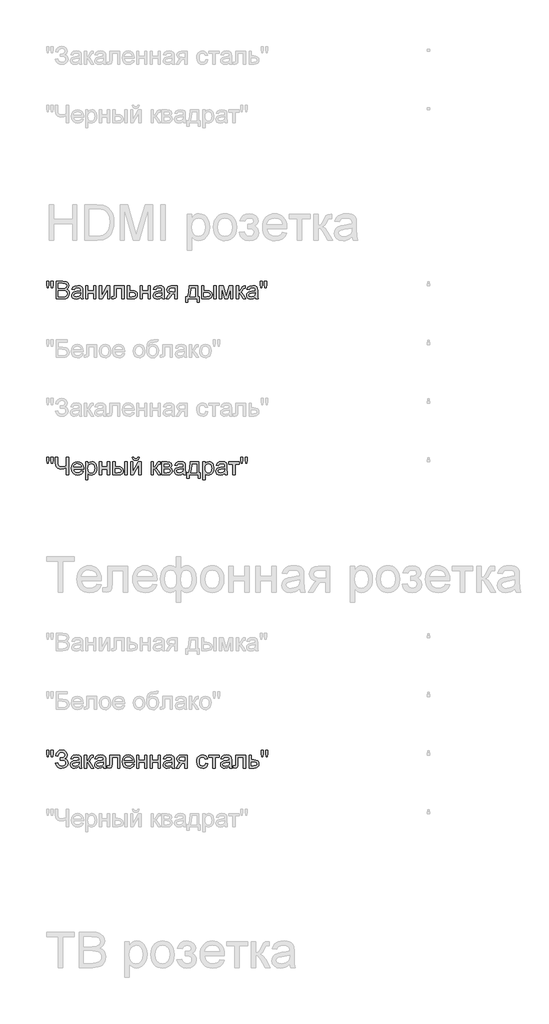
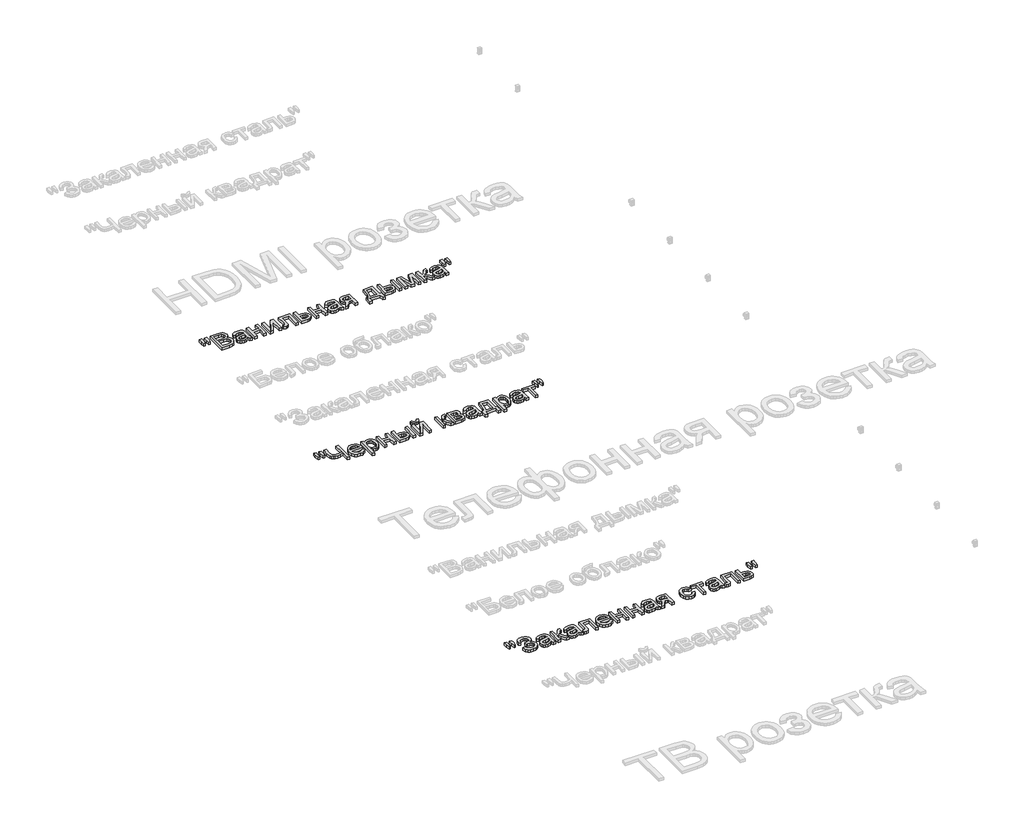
# One storey, part 53 of 168: 3 proxies.
"""IFC4 building model written with IfcOpenShell, lengths in millimetres."""

from ifc_helpers import new_model, si_unit, origin, origin_with_axes, place, context, project, spatial, polyline, outline, extrude, element, save

model = new_model("IFC4")

# Units and contexts
model_context = context("Model", 3, world=origin())
ifc_project = project(units=[si_unit("LENGTHUNIT", "METRE", prefix="MILLI")], contexts=[model_context])

# Site, building, storey
site = spatial("IfcSite", under=ifc_project)
building = spatial("IfcBuilding", under=site)
storey = spatial("IfcBuildingStorey", under=building, Name="Этаж 01", Elevation=0.0)

# Proxies
placement = place(None, origin())
element("IfcBuildingElementProxy", 1, Name="150", ObjectType="150", at=placement, inside=storey, context=model_context, shape_type="SweptSolid", body=[
    extrude(outline(polyline([(54389.7772739, -43970.3300622), (54385.178749, -43941.2305964), (54385.178749, -43916.1778325), (54404.0143071, -43916.1778325), (54404.0143071, -43941.2305964), (54399.8940288, -43970.3300622), (54389.7772739, -43970.3300622)])), origin_with_axes(), (0.0, 0.0, 1.0), 20.0),
    extrude(outline(polyline([(54427.3380256, -43970.3300622), (54422.8498653, -43941.2305964), (54422.8498653, -43916.1778325), (54441.6854234, -43916.1778325), (54441.6854234, -43941.2305964), (54437.2708395, -43970.3300622), (54427.3380256, -43970.3300622)])), origin_with_axes(), (0.0, 0.0, 1.0), 20.0),
    extrude(outline(polyline([(54467.5843159, -44066.8622977), (54467.5843159, -43916.1778325), (54525.0842718, -43916.1778325), (54553.2456385, -43920.6108106), (54562.7094028, -43926.2348066), (54569.8739047, -43934.2408385), (54575.8887753, -43953.517855), (54570.8303979, -43971.1210085), (54555.544901, -43984.4567308), (54566.2180773, -43990.030143), (54574.1045476, -43998.509823), (54578.9743855, -44009.3347507), (54580.5976648, -44021.9439061), (54576.1646868, -44042.19581), (54565.1834092, -44056.6167842), (54548.7942663, -44064.2687297), (54524.6428134, -44066.8622977), (54467.5843159, -44066.8622977)]), holes=[polyline([(54486.4198741, -43977.3933965), (54520.8168406, -43977.3933965), (54540.9031975, -43975.7747157), (54552.9881211, -43968.8033519), (54557.0532171, -43956.5344874), (54553.2640326, -43944.2472287), (54542.4115137, -43936.9815593), (54518.2048784, -43935.0133907), (54486.4198741, -43935.0133907), (54486.4198741, -43977.3933965)]), polyline([(54486.4198741, -44048.0267396), (54525.0474836, -44048.0267396), (54539.0269994, -44047.2909756), (54550.8544055, -44043.1890913), (54558.690292, -44034.819776), (54561.7621067, -44022.1278471), (54558.1568631, -44007.4861437), (54546.4766098, -43998.7489463), (54523.2080736, -43996.2289547), (54486.4198741, -43996.2289547), (54486.4198741, -44048.0267396)])]), origin_with_axes(), (0.0, 0.0, 1.0), 20.0),
    extrude(outline(polyline([(54674.7754556, -44052.7356291), (54656.5101145, -44065.5011344), (54636.3317871, -44069.2167425), (54620.5910362, -44066.9818594), (54608.9797608, -44060.27721), (54601.8198574, -44050.0960758), (54599.433223, -44037.4317381), (54603.0384665, -44022.5325173), (54612.5114279, -44011.7167867), (54625.6999974, -44005.5363691), (54641.9971698, -44002.7036778), (54674.665091, -43996.2289547), (54674.7754556, -43992.0350999), (54673.4786716, -43983.6289963), (54669.5883195, -43978.1291605), (54660.8879103, -43974.0456704), (54648.7661985, -43972.684507), (54629.7099112, -43976.3081446), (54620.6232259, -43989.1656204), (54601.7876677, -43986.8111756), (54609.9362539, -43968.4170758), (54626.3437909, -43957.6381334), (54651.1942197, -43953.8489488), (54674.0212975, -43957.196675), (54686.9155614, -43965.6027786), (54692.6913088, -43978.3866779), (54693.6110137, -43994.8677913), (54693.6110137, -44018.3018744), (54694.5675069, -44051.0249778), (54698.3199033, -44066.8622977), (54679.4843451, -44066.8622977), (54674.7754556, -44052.7356291)]), holes=[polyline([(54674.7754556, -44015.0645128), (54644.3884028, -44020.8402601), (54628.1832009, -44023.8936807), (54620.8439551, -44028.8600876), (54618.2687811, -44036.1073629), (54623.8789816, -44046.2976942), (54640.3417008, -44050.3811843), (54659.3979882, -44045.8746299), (54671.6852468, -44034.9669288), (54674.665091, -44020.3988017), (54674.7754556, -44015.0645128)])]), origin_with_axes(), (0.0, 0.0, 1.0), 20.0),
    extrude(outline(polyline([(54719.5099062, -43956.2033936), (54738.3454644, -43956.2033936), (54738.3454644, -43998.5833994), (54787.7888045, -43998.5833994), (54787.7888045, -43956.2033936), (54806.6243627, -43956.2033936), (54806.6243627, -44066.8622977), (54787.7888045, -44066.8622977), (54787.7888045, -44017.4189576), (54738.3454644, -44017.4189576), (54738.3454644, -44066.8622977), (54719.5099062, -44066.8622977), (54719.5099062, -43956.2033936)])), origin_with_axes(), (0.0, 0.0, 1.0), 20.0),
    extrude(outline(polyline([(54834.8776999, -43956.2033936), (54853.713258, -43956.2033936), (54853.713258, -44040.5955233), (54899.992813, -43956.2033936), (54924.3466011, -43956.2033936), (54924.3466011, -44066.8622977), (54905.511043, -44066.8622977), (54905.511043, -43982.9852028), (54859.5257936, -44066.8622977), (54834.8776999, -44066.8622977), (54834.8776999, -43956.2033936)])), origin_with_axes(), (0.0, 0.0, 1.0), 20.0),
    extrude(outline(polyline([(54962.0177174, -43956.2033936), (55046.7777291, -43956.2033936), (55046.7777291, -44066.7519331), (55027.942171, -44066.7519331), (55027.942171, -43975.0389517), (54980.8532756, -43975.0389517), (54980.8532756, -44027.830018), (54979.5840827, -44052.1838061), (54972.6127189, -44062.4661079), (54956.1316055, -44066.8622977), (54940.8277145, -44065.9058045), (54940.8277145, -44048.0267396), (54949.2522122, -44048.0267396), (54957.7686804, -44046.8679113), (54961.1715888, -44043.1890913), (54962.0177174, -44026.7631603), (54962.0177174, -43956.2033936)])), origin_with_axes(), (0.0, 0.0, 1.0), 20.0),
    extrude(outline(polyline([(55075.0310663, -43956.2033936), (55093.8666245, -43956.2033936), (55093.8666245, -43996.2289547), (55115.5716622, -43996.2289547), (55134.3888263, -43998.587998), (55148.3131598, -44005.6651278), (55156.9215985, -44016.8901272), (55159.791078, -44031.692779), (55157.3492613, -44045.1710556), (55150.0238111, -44056.5432078), (55137.3272837, -44064.2825252), (55118.7722356, -44066.8622977), (55075.0310663, -44066.8622977), (55075.0310663, -43956.2033936)]), holes=[polyline([(55093.8666245, -44048.0267396), (55111.4513839, -44048.0267396), (55134.1680971, -44044.0720081), (55139.2586642, -44039.0090322), (55140.9555199, -44031.7295672), (55135.9339306, -44020.1412843), (55127.8635194, -44016.3337057), (55113.695464, -44015.0645128), (55093.8666245, -44015.0645128), (55093.8666245, -44048.0267396)])]), origin_with_axes(), (0.0, 0.0, 1.0), 20.0),
    extrude(outline(polyline([(55183.3355257, -43956.2033936), (55202.1710839, -43956.2033936), (55202.1710839, -43998.5833994), (55251.614424, -43998.5833994), (55251.614424, -43956.2033936), (55270.4499822, -43956.2033936), (55270.4499822, -44066.8622977), (55251.614424, -44066.8622977), (55251.614424, -44017.4189576), (55202.1710839, -44017.4189576), (55202.1710839, -44066.8622977), (55183.3355257, -44066.8622977), (55183.3355257, -43956.2033936)])), origin_with_axes(), (0.0, 0.0, 1.0), 20.0),
    extrude(outline(polyline([(55369.3366625, -44052.7356291), (55351.0713214, -44065.5011344), (55330.892994, -44069.2167425), (55315.1522431, -44066.9818594), (55303.5409676, -44060.27721), (55296.3810643, -44050.0960758), (55293.9944299, -44037.4317381), (55297.5996734, -44022.5325173), (55307.0726348, -44011.7167867), (55320.2612043, -44005.5363691), (55336.5583767, -44002.7036778), (55369.2262979, -43996.2289547), (55369.3366625, -43992.0350999), (55368.0398785, -43983.6289963), (55364.1495264, -43978.1291605), (55355.4491172, -43974.0456704), (55343.3274054, -43972.684507), (55324.2711181, -43976.3081446), (55315.1844328, -43989.1656204), (55296.3488746, -43986.8111756), (55304.4974608, -43968.4170758), (55320.9049978, -43957.6381334), (55345.7554266, -43953.8489488), (55368.5825044, -43957.196675), (55381.4767683, -43965.6027786), (55387.2525157, -43978.3866779), (55388.1722206, -43994.8677913), (55388.1722206, -44018.3018744), (55389.1287138, -44051.0249778), (55392.8811102, -44066.8622977), (55374.045552, -44066.8622977), (55369.3366625, -44052.7356291)]), holes=[polyline([(55369.3366625, -44015.0645128), (55338.9496097, -44020.8402601), (55322.7444078, -44023.8936807), (55315.405162, -44028.8600876), (55312.829988, -44036.1073629), (55318.4401885, -44046.2976942), (55334.9029077, -44050.3811843), (55353.9591951, -44045.8746299), (55366.2464537, -44034.9669288), (55369.2262979, -44020.3988017), (55369.3366625, -44015.0645128)])]), origin_with_axes(), (0.0, 0.0, 1.0), 20.0),
    extrude(outline(polyline([(55498.8311248, -43956.2033936), (55498.8311248, -44066.8622977), (55479.9955666, -44066.8622977), (55479.9955666, -44024.4822919), (55469.731659, -44024.4822919), (55455.7521432, -44026.8735249), (55442.6187559, -44042.949968), (55427.6091705, -44066.8622977), (55405.8305564, -44066.8622977), (55424.739691, -44036.6223977), (55433.0906122, -44025.7698789), (55440.7793459, -44020.9506247), (55427.9034761, -44017.0050903), (55418.853579, -44009.5094947), (55413.500896, -43999.5398926), (55411.7166683, -43988.172339), (55414.1538865, -43975.278075), (55421.4655412, -43965.0693497), (55433.3941149, -43958.4198826), (55449.6820902, -43956.2033936), (55498.8311248, -43956.2033936)]), holes=[polyline([(55479.9955666, -43975.0389517), (55455.163532, -43975.0389517), (55442.3382459, -43976.1288021), (55435.0587809, -43979.3983534), (55430.5522265, -43989.6070787), (55432.212294, -43996.7853762), (55437.1924965, -44001.7655787), (55460.7185501, -44005.6467337), (55479.9955666, -44005.6467337), (55479.9955666, -43975.0389517)])]), origin_with_axes(), (0.0, 0.0, 1.0), 20.0),
    extrude(outline(polyline([(55602.4266946, -43956.2033936), (55673.0600377, -43956.2033936), (55673.0600377, -44048.0267396), (55687.1867063, -44048.0267396), (55687.1867063, -44097.4700797), (55668.3511482, -44097.4700797), (55668.3511482, -44066.8622977), (55590.6544708, -44066.8622977), (55590.6544708, -44097.4700797), (55571.8189126, -44097.4700797), (55571.8189126, -44048.0267396), (55583.5911365, -44048.0267396), (55592.1489914, -44032.5619002), (55598.1408694, -44012.1030628), (55602.4266946, -43956.2033936)]), holes=[polyline([(55618.907808, -43975.0389517), (55614.4932241, -44017.9523865), (55604.7811394, -44048.0267396), (55654.2244796, -44048.0267396), (55654.2244796, -43975.0389517), (55618.907808, -43975.0389517)])]), origin_with_axes(), (0.0, 0.0, 1.0), 20.0),
    extrude(outline(polyline([(55811.9722791, -43956.2033936), (55830.8078372, -43956.2033936), (55830.8078372, -44066.8622977), (55811.9722791, -44066.8622977), (55811.9722791, -43956.2033936)])), origin_with_axes(), (0.0, 0.0, 1.0), 20.0),
    extrude(outline(polyline([(55708.3767092, -43956.2033936), (55727.2122674, -43956.2033936), (55727.2122674, -43996.2289547), (55750.4991977, -43996.2289547), (55770.6269413, -43998.587998), (55785.5399577, -44005.6651278), (55794.7691973, -44016.8901272), (55797.8456105, -44031.692779), (55795.265838, -44045.1710556), (55787.5265205, -44056.5432078), (55774.1218203, -44064.2825252), (55754.5458996, -44066.8622977), (55708.3767092, -44066.8622977), (55708.3767092, -43956.2033936)]), holes=[polyline([(55727.2122674, -44048.0267396), (55746.5628603, -44048.0267396), (55771.5420478, -44044.0720081), (55777.1430512, -44039.0090322), (55779.0100523, -44031.7295672), (55773.4734283, -44020.1412843), (55764.5936766, -44016.3337057), (55749.0276697, -44015.0645128), (55727.2122674, -44015.0645128), (55727.2122674, -44048.0267396)])]), origin_with_axes(), (0.0, 0.0, 1.0), 20.0),
    extrude(outline(polyline([(55859.0611745, -43956.2033936), (55891.4715782, -43956.2033936), (55916.4507657, -44044.789378), (55943.3797278, -43956.2033936), (55974.4289682, -43956.2033936), (55974.4289682, -44066.8622977), (55955.59341, -44066.8622977), (55955.59341, -43977.7612785), (55928.5172952, -44066.8622977), (55903.7956251, -44066.8622977), (55877.8967326, -43973.4938474), (55877.8967326, -44066.8622977), (55859.0611745, -44066.8622977), (55859.0611745, -43956.2033936)])), origin_with_axes(), (0.0, 0.0, 1.0), 20.0),
    extrude(outline(polyline([(56002.6823054, -43956.2033936), (56021.5178635, -43956.2033936), (56021.5178635, -44003.292289), (56034.136216, -43999.9077746), (56044.4737, -43980.1892997), (56053.0637446, -43963.1747574), (56060.6421137, -43957.6381334), (56074.4192944, -43956.2033936), (56078.024538, -43956.2033936), (56078.024538, -43975.1493163), (56072.9477665, -43975.0389517), (56063.7507166, -43977.0255145), (56057.2759935, -43989.4231377), (56049.6792303, -44002.8324365), (56039.0290465, -44009.3991301), (56050.9116349, -44016.7291788), (56062.5734942, -44032.1710256), (56082.7334275, -44066.8622977), (56061.3226954, -44066.8622977), (56041.5674323, -44032.9067896), (56031.6346184, -44018.5409977), (56021.5178635, -44015.0645128), (56021.5178635, -44066.8622977), (56002.6823054, -44066.8622977), (56002.6823054, -43956.2033936)])), origin_with_axes(), (0.0, 0.0, 1.0), 20.0),
    extrude(outline(polyline([(56165.1389945, -44052.7356291), (56146.8736534, -44065.5011344), (56126.695326, -44069.2167425), (56110.9545751, -44066.9818594), (56099.3432996, -44060.27721), (56092.1833963, -44050.0960758), (56089.7967618, -44037.4317381), (56093.4020054, -44022.5325173), (56102.8749668, -44011.7167867), (56116.0635363, -44005.5363691), (56132.3607087, -44002.7036778), (56165.0286299, -43996.2289547), (56165.1389945, -43992.0350999), (56163.8422104, -43983.6289963), (56159.9518583, -43978.1291605), (56151.2514491, -43974.0456704), (56139.1297374, -43972.684507), (56120.07345, -43976.3081446), (56110.9867648, -43989.1656204), (56092.1512066, -43986.8111756), (56100.2997928, -43968.4170758), (56116.7073298, -43957.6381334), (56141.5577586, -43953.8489488), (56164.3848364, -43957.196675), (56177.2791003, -43965.6027786), (56183.0548476, -43978.3866779), (56183.9745526, -43994.8677913), (56183.9745526, -44018.3018744), (56184.9310458, -44051.0249778), (56188.6834421, -44066.8622977), (56169.847884, -44066.8622977), (56165.1389945, -44052.7356291)]), holes=[polyline([(56165.1389945, -44015.0645128), (56134.7519417, -44020.8402601), (56118.5467398, -44023.8936807), (56111.207494, -44028.8600876), (56108.63232, -44036.1073629), (56114.2425204, -44046.2976942), (56130.7052397, -44050.3811843), (56149.7615271, -44045.8746299), (56162.0487857, -44034.9669288), (56165.0286299, -44020.3988017), (56165.1389945, -44015.0645128)])]), origin_with_axes(), (0.0, 0.0, 1.0), 20.0),
    extrude(outline(polyline([(56209.7630805, -43970.3300622), (56205.1645555, -43941.2305964), (56205.1645555, -43916.1778325), (56224.0001137, -43916.1778325), (56224.0001137, -43941.2305964), (56219.8798353, -43970.3300622), (56209.7630805, -43970.3300622)])), origin_with_axes(), (0.0, 0.0, 1.0), 20.0),
    extrude(outline(polyline([(56247.3238322, -43970.3300622), (56242.8356718, -43941.2305964), (56242.8356718, -43916.1778325), (56261.67123, -43916.1778325), (56261.67123, -43941.2305964), (56257.256646, -43970.3300622), (56247.3238322, -43970.3300622)])), origin_with_axes(), (0.0, 0.0, 1.0), 20.0),
])
element("IfcBuildingElementProxy", 2, Name="150", ObjectType="150", at=placement, inside=storey, context=model_context, shape_type="SweptSolid", body=[
    extrude(outline(polyline([(54389.7772739, -45470.3300622), (54385.178749, -45441.2305964), (54385.178749, -45416.1778325), (54404.0143071, -45416.1778325), (54404.0143071, -45441.2305964), (54399.8940288, -45470.3300622), (54389.7772739, -45470.3300622)])), origin_with_axes(), (0.0, 0.0, 1.0), 20.0),
    extrude(outline(polyline([(54427.3380256, -45470.3300622), (54422.8498653, -45441.2305964), (54422.8498653, -45416.1778325), (54441.6854234, -45416.1778325), (54441.6854234, -45441.2305964), (54437.2708395, -45470.3300622), (54427.3380256, -45470.3300622)])), origin_with_axes(), (0.0, 0.0, 1.0), 20.0),
    extrude(outline(polyline([(54573.5343305, -45566.8622977), (54554.6987724, -45566.8622977), (54554.6987724, -45506.5296505), (54529.7195849, -45514.6966308), (54508.0513354, -45517.4189576), (54493.3682452, -45515.556555), (54480.515368, -45509.9693472), (54470.554963, -45501.5172583), (54464.5492894, -45491.0602126), (54460.5209816, -45461.0594359), (54460.5209816, -45416.1778325), (54479.3565398, -45416.1778325), (54479.3565398, -45458.5210502), (54481.619014, -45478.8879171), (54488.4064368, -45490.8394834), (54498.3668419, -45496.6474204), (54510.1482628, -45498.5833994), (54531.8808916, -45496.2473488), (54554.6987724, -45489.2391968), (54554.6987724, -45416.1778325), (54573.5343305, -45416.1778325), (54573.5343305, -45566.8622977)])), origin_with_axes(), (0.0, 0.0, 1.0), 20.0),
    extrude(outline(polyline([(54681.6180607, -45533.900071), (54700.0857369, -45536.2545157), (54693.4316713, -45550.1696522), (54682.8136772, -45560.5715156), (54668.4708779, -45567.0554358), (54650.6423967, -45569.2167425), (54628.5418858, -45565.4873388), (54611.5365406, -45554.2991276), (54600.6932188, -45536.3786759), (54597.0787782, -45512.4525506), (54600.730007, -45487.7216835), (54611.6836934, -45469.2264162), (54628.4591124, -45457.6933157), (54649.5755389, -45453.8489488), (54670.0343764, -45457.6841186), (54686.3821325, -45469.189628), (54697.1012942, -45487.6481071), (54700.6743481, -45512.342186), (54700.5639835, -45517.4189576), (54615.9143364, -45517.4189576), (54619.1746905, -45531.518035), (54626.7484611, -45541.8831103), (54637.6791549, -45548.2566658), (54651.0102787, -45550.3811843), (54669.4779549, -45546.444847), (54681.6180607, -45533.900071)]), holes=[polyline([(54615.9143364, -45498.5833994), (54681.8387899, -45498.5833994), (54679.2912071, -45488.6321915), (54674.297209, -45481.5136749), (54663.3159314, -45474.8917989), (54649.5019625, -45472.684507), (54636.8054352, -45474.445742), (54626.3070027, -45479.7294472), (54619.0091436, -45487.9654053), (54615.9143364, -45498.5833994)])]), origin_with_axes(), (0.0, 0.0, 1.0), 20.0),
    extrude(outline(polyline([(54719.5099062, -45609.2423036), (54719.5099062, -45456.2033936), (54738.3454644, -45456.2033936), (54738.3454644, -45474.6710697), (54751.368487, -45459.054479), (54768.9532464, -45453.8489488), (54781.6911604, -45455.6699647), (54792.8287878, -45461.1330123), (54801.897079, -45469.9069979), (54808.4269844, -45481.6608277), (54813.687697, -45510.6867171), (54812.2023734, -45526.7953499), (54807.7464027, -45541.2025286), (54800.4623392, -45553.1770875), (54790.4927372, -45561.9878613), (54778.8814617, -45567.4095222), (54766.672378, -45569.2167425), (54750.2832351, -45564.3790943), (54738.3454644, -45552.1470179), (54738.3454644, -45609.2423036), (54719.5099062, -45609.2423036)]), holes=[polyline([(54738.3454644, -45512.4157624), (54740.3826109, -45529.301546), (54746.4940506, -45541.1105581), (54755.511758, -45548.0635278), (54766.2677078, -45550.3811843), (54777.1984016, -45547.9807543), (54786.4460352, -45540.7794643), (54792.7506129, -45528.5381909), (54794.8521388, -45511.0178109), (54792.8011967, -45494.2239978), (54786.6483703, -45482.2494388), (54777.6444585, -45475.0757399), (54767.04026, -45472.684507), (54756.3946747, -45475.2274913), (54747.0458735, -45482.8564441), (54740.5205667, -45495.3322423), (54738.3454644, -45512.4157624)])]), origin_with_axes(), (0.0, 0.0, 1.0), 20.0),
    extrude(outline(polyline([(54834.8776999, -45456.2033936), (54853.713258, -45456.2033936), (54853.713258, -45498.5833994), (54903.1565982, -45498.5833994), (54903.1565982, -45456.2033936), (54921.9921564, -45456.2033936), (54921.9921564, -45566.8622977), (54903.1565982, -45566.8622977), (54903.1565982, -45517.4189576), (54853.713258, -45517.4189576), (54853.713258, -45566.8622977), (54834.8776999, -45566.8622977), (54834.8776999, -45456.2033936)])), origin_with_axes(), (0.0, 0.0, 1.0), 20.0),
    extrude(outline(polyline([(55053.8410634, -45456.2033936), (55072.6766216, -45456.2033936), (55072.6766216, -45566.8622977), (55053.8410634, -45566.8622977), (55053.8410634, -45456.2033936)])), origin_with_axes(), (0.0, 0.0, 1.0), 20.0),
    extrude(outline(polyline([(54950.2454936, -45456.2033936), (54969.0810517, -45456.2033936), (54969.0810517, -45496.2289547), (54992.367982, -45496.2289547), (55012.4957257, -45498.587998), (55027.4087421, -45505.6651278), (55036.6379816, -45516.8901272), (55039.7143948, -45531.692779), (55037.1346223, -45545.1710556), (55029.3953048, -45556.5432078), (55015.9906046, -45564.2825252), (54996.414684, -45566.8622977), (54950.2454936, -45566.8622977), (54950.2454936, -45456.2033936)]), holes=[polyline([(54969.0810517, -45548.0267396), (54988.4316447, -45548.0267396), (55013.4108322, -45544.0720081), (55019.0118355, -45539.0090322), (55020.8788367, -45531.7295672), (55015.3422126, -45520.1412843), (55006.462461, -45516.3337057), (54990.896454, -45515.0645128), (54969.0810517, -45515.0645128), (54969.0810517, -45548.0267396)])]), origin_with_axes(), (0.0, 0.0, 1.0), 20.0),
    extrude(outline(polyline([(55100.9299588, -45456.2033936), (55119.765517, -45456.2033936), (55119.765517, -45540.5955233), (55166.045072, -45456.2033936), (55190.39886, -45456.2033936), (55190.39886, -45566.8622977), (55171.5633019, -45566.8622977), (55171.5633019, -45482.9852028), (55125.5780525, -45566.8622977), (55100.9299588, -45566.8622977), (55100.9299588, -45456.2033936)])), origin_with_axes(), (0.0, 0.0, 1.0), 20.0),
    extrude(outline(polyline([(55162.1455228, -45416.1778325), (55176.2721914, -45416.1778325), (55173.2325664, -45428.2397634), (55167.1303238, -45437.1287121), (55158.2413751, -45442.6055553), (55146.8416318, -45444.4311697), (55134.4715997, -45442.6193509), (55124.8790767, -45437.1838944), (55118.3215801, -45428.3087413), (55115.0566274, -45416.1778325), (55129.183296, -45416.1778325), (55134.4807968, -45426.7912281), (55145.1493746, -45430.3045011), (55156.8480221, -45426.9015927), (55162.1455228, -45416.1778325)])), origin_with_axes(), (0.0, 0.0, 1.0), 20.0),
    extrude(outline(polyline([(55277.5133165, -45456.2033936), (55296.3488746, -45456.2033936), (55296.3488746, -45503.292289), (55308.9672271, -45499.9077746), (55319.3047111, -45480.1892997), (55327.8947557, -45463.1747574), (55335.4731248, -45457.6381334), (55349.2503055, -45456.2033936), (55352.8555491, -45456.2033936), (55352.8555491, -45475.1493163), (55347.7787776, -45475.0389517), (55338.5817277, -45477.0255145), (55332.1070046, -45489.4231377), (55324.5102414, -45502.8324365), (55313.8600576, -45509.3991301), (55325.7426461, -45516.7291788), (55337.4045053, -45532.1710256), (55357.5644386, -45566.8622977), (55336.1537065, -45566.8622977), (55316.3984434, -45532.9067896), (55306.4656295, -45518.5409977), (55296.3488746, -45515.0645128), (55296.3488746, -45566.8622977), (55277.5133165, -45566.8622977), (55277.5133165, -45456.2033936)])), origin_with_axes(), (0.0, 0.0, 1.0), 20.0),
    extrude(outline(polyline([(55369.3366625, -45456.2033936), (55410.8337515, -45456.2033936), (55433.5872529, -45458.7233853), (55446.3895464, -45467.9572233), (55451.7422294, -45484.0520606), (55448.5048678, -45497.1302655), (55438.755995, -45506.4560741), (55451.4111356, -45516.6647995), (55456.4511189, -45534.4151058), (55453.2597426, -45548.7717006), (55445.6721765, -45558.8792584), (55433.6608293, -45564.8665379), (55417.1981101, -45566.8622977), (55369.3366625, -45566.8622977), (55369.3366625, -45456.2033936)]), holes=[polyline([(55388.1722206, -45498.5833994), (55406.7870496, -45498.5833994), (55422.1461229, -45497.6269062), (55429.6141274, -45493.8009335), (55432.9066713, -45486.884752), (55431.4627344, -45481.2653545), (55427.1309239, -45477.6509139), (55407.3756608, -45475.0389517), (55388.1722206, -45475.0389517), (55388.1722206, -45498.5833994)]), polyline([(55388.1722206, -45548.0267396), (55411.2752099, -45548.0267396), (55431.7662371, -45544.6238311), (55436.0060771, -45539.9839195), (55437.6155608, -45532.8700014), (55434.3965933, -45523.8017102), (55426.0088838, -45518.5226036), (55409.4358, -45517.4189576), (55388.1722206, -45517.4189576), (55388.1722206, -45548.0267396)])]), origin_with_axes(), (0.0, 0.0, 1.0), 20.0),
    extrude(outline(polyline([(55550.6289097, -45552.7356291), (55532.3635686, -45565.5011344), (55512.1852412, -45569.2167425), (55496.4444903, -45566.9818594), (55484.8332149, -45560.27721), (55477.6733115, -45550.0960758), (55475.2866771, -45537.4317381), (55478.8919206, -45522.5325173), (55488.364882, -45511.7167867), (55501.5534516, -45505.5363691), (55517.8506239, -45502.7036778), (55550.5185451, -45496.2289547), (55550.6289097, -45492.0350999), (55549.3321257, -45483.6289963), (55545.4417736, -45478.1291605), (55536.7413644, -45474.0456704), (55524.6196526, -45472.684507), (55505.5633653, -45476.3081446), (55496.47668, -45489.1656204), (55477.6411219, -45486.8111756), (55485.7897081, -45468.4170758), (55502.197245, -45457.6381334), (55527.0476738, -45453.8489488), (55549.8747516, -45457.196675), (55562.7690155, -45465.6027786), (55568.5447629, -45478.3866779), (55569.4644679, -45494.8677913), (55569.4644679, -45518.3018744), (55570.420961, -45551.0249778), (55574.1733574, -45566.8622977), (55555.3377992, -45566.8622977), (55550.6289097, -45552.7356291)]), holes=[polyline([(55550.6289097, -45515.0645128), (55520.2418569, -45520.8402601), (55504.036655, -45523.8936807), (55496.6974092, -45528.8600876), (55494.1222352, -45536.1073629), (55499.7324357, -45546.2976942), (55516.195155, -45550.3811843), (55535.2514423, -45545.8746299), (55547.5387009, -45534.9669288), (55550.5185451, -45520.3988017), (55550.6289097, -45515.0645128)])]), origin_with_axes(), (0.0, 0.0, 1.0), 20.0),
    extrude(outline(polyline([(55611.8444737, -45456.2033936), (55682.4778168, -45456.2033936), (55682.4778168, -45548.0267396), (55696.6044854, -45548.0267396), (55696.6044854, -45597.4700797), (55677.7689272, -45597.4700797), (55677.7689272, -45566.8622977), (55600.0722499, -45566.8622977), (55600.0722499, -45597.4700797), (55581.2366917, -45597.4700797), (55581.2366917, -45548.0267396), (55593.0089156, -45548.0267396), (55601.5667705, -45532.5619002), (55607.5586485, -45512.1030628), (55611.8444737, -45456.2033936)]), holes=[polyline([(55628.3255871, -45475.0389517), (55623.9110031, -45517.9523865), (55614.1989185, -45548.0267396), (55663.6422586, -45548.0267396), (55663.6422586, -45475.0389517), (55628.3255871, -45475.0389517)])]), origin_with_axes(), (0.0, 0.0, 1.0), 20.0),
    extrude(outline(polyline([(55717.7944883, -45609.2423036), (55717.7944883, -45456.2033936), (55736.6300465, -45456.2033936), (55736.6300465, -45474.6710697), (55749.6530691, -45459.054479), (55767.2378285, -45453.8489488), (55779.9757426, -45455.6699647), (55791.11337, -45461.1330123), (55800.1816611, -45469.9069979), (55806.7115666, -45481.6608277), (55811.9722791, -45510.6867171), (55810.4869555, -45526.7953499), (55806.0309849, -45541.2025286), (55798.7469214, -45553.1770875), (55788.7773193, -45561.9878613), (55777.1660438, -45567.4095222), (55764.9569601, -45569.2167425), (55748.5678172, -45564.3790943), (55736.6300465, -45552.1470179), (55736.6300465, -45609.2423036), (55717.7944883, -45609.2423036)]), holes=[polyline([(55736.6300465, -45512.4157624), (55738.667193, -45529.301546), (55744.7786327, -45541.1105581), (55753.7963401, -45548.0635278), (55764.5522899, -45550.3811843), (55775.4829837, -45547.9807543), (55784.7306173, -45540.7794643), (55791.035195, -45528.5381909), (55793.1367209, -45511.0178109), (55791.0857788, -45494.2239978), (55784.9329524, -45482.2494388), (55775.9290406, -45475.0757399), (55765.3248421, -45472.684507), (55754.6792569, -45475.2274913), (55745.3304557, -45482.8564441), (55738.8051488, -45495.3322423), (55736.6300465, -45512.4157624)])]), origin_with_axes(), (0.0, 0.0, 1.0), 20.0),
    extrude(outline(polyline([(55903.7956251, -45552.7356291), (55885.530284, -45565.5011344), (55865.3519566, -45569.2167425), (55849.6112057, -45566.9818594), (55837.9999302, -45560.27721), (55830.8400269, -45550.0960758), (55828.4533925, -45537.4317381), (55832.058636, -45522.5325173), (55841.5315974, -45511.7167867), (55854.7201669, -45505.5363691), (55871.0173393, -45502.7036778), (55903.6852605, -45496.2289547), (55903.7956251, -45492.0350999), (55902.498841, -45483.6289963), (55898.6084889, -45478.1291605), (55889.9080798, -45474.0456704), (55877.786368, -45472.684507), (55858.7300807, -45476.3081446), (55849.6433954, -45489.1656204), (55830.8078372, -45486.8111756), (55838.9564234, -45468.4170758), (55855.3639604, -45457.6381334), (55880.2143892, -45453.8489488), (55903.041467, -45457.196675), (55915.9357309, -45465.6027786), (55921.7114782, -45478.3866779), (55922.6311832, -45494.8677913), (55922.6311832, -45518.3018744), (55923.5876764, -45551.0249778), (55927.3400728, -45566.8622977), (55908.5045146, -45566.8622977), (55903.7956251, -45552.7356291)]), holes=[polyline([(55903.7956251, -45515.0645128), (55873.4085723, -45520.8402601), (55857.2033704, -45523.8936807), (55849.8641246, -45528.8600876), (55847.2889506, -45536.1073629), (55852.899151, -45546.2976942), (55869.3618703, -45550.3811843), (55888.4181577, -45545.8746299), (55900.7054163, -45534.9669288), (55903.6852605, -45520.3988017), (55903.7956251, -45515.0645128)])]), origin_with_axes(), (0.0, 0.0, 1.0), 20.0),
    extrude(outline(polyline([(55939.1122966, -45456.2033936), (56028.5811978, -45456.2033936), (56028.5811978, -45475.0389517), (55993.2645263, -45475.0389517), (55993.2645263, -45566.8622977), (55974.4289682, -45566.8622977), (55974.4289682, -45475.0389517), (55939.1122966, -45475.0389517), (55939.1122966, -45456.2033936)])), origin_with_axes(), (0.0, 0.0, 1.0), 20.0),
    extrude(outline(polyline([(56044.9519466, -45470.3300622), (56040.3534217, -45441.2305964), (56040.3534217, -45416.1778325), (56059.1889798, -45416.1778325), (56059.1889798, -45441.2305964), (56055.0687015, -45470.3300622), (56044.9519466, -45470.3300622)])), origin_with_axes(), (0.0, 0.0, 1.0), 20.0),
    extrude(outline(polyline([(56082.5126983, -45470.3300622), (56078.024538, -45441.2305964), (56078.024538, -45416.1778325), (56096.8600961, -45416.1778325), (56096.8600961, -45441.2305964), (56092.4455122, -45470.3300622), (56082.5126983, -45470.3300622)])), origin_with_axes(), (0.0, 0.0, 1.0), 20.0),
])
element("IfcBuildingElementProxy", 3, Name="150", ObjectType="150", at=placement, inside=storey, context=model_context, shape_type="SweptSolid", body=[
    extrude(outline(polyline([(54389.7772739, -47970.3300622), (54385.178749, -47941.2305964), (54385.178749, -47916.1778325), (54404.0143071, -47916.1778325), (54404.0143071, -47941.2305964), (54399.8940288, -47970.3300622), (54389.7772739, -47970.3300622)])), origin_with_axes(), (0.0, 0.0, 1.0), 20.0),
    extrude(outline(polyline([(54427.3380256, -47970.3300622), (54422.8498653, -47941.2305964), (54422.8498653, -47916.1778325), (54441.6854234, -47916.1778325), (54441.6854234, -47941.2305964), (54437.2708395, -47970.3300622), (54427.3380256, -47970.3300622)])), origin_with_axes(), (0.0, 0.0, 1.0), 20.0),
    extrude(outline(polyline([(54460.5209816, -48024.4822919), (54479.3565398, -48019.7734024), (54490.9264285, -48040.172459), (54501.8571223, -48047.829003), (54515.8504337, -48050.3811843), (54530.0276861, -48048.4635995), (54540.8480152, -48042.7108448), (54547.7044159, -48034.2449603), (54549.9898828, -48024.1879863), (54547.4928838, -48013.6527657), (54540.0018867, -48005.517975), (54528.2066702, -48000.3170433), (54512.7970131, -47998.5833994), (54502.9009874, -47998.5833994), (54502.9009874, -47979.7478413), (54524.2197491, -47978.221131), (54537.2611658, -47970.4220327), (54542.9265485, -47956.1666054), (54541.0411533, -47947.2960508), (54535.3849676, -47939.6670979), (54526.5098145, -47934.4109839), (54514.9675169, -47932.6589459), (54495.7456826, -47938.0484171), (54484.746011, -47952.3406326), (54481.7109845, -47965.6211727), (54462.8754264, -47960.9122831), (54468.7270494, -47940.3108914), (54479.3289486, -47925.5956116), (54494.6811241, -47916.7664437), (54514.7835759, -47913.8233877), (54534.1755556, -47916.8814068), (54549.0885719, -47926.0554641), (54558.593723, -47939.3222085), (54561.7621067, -47954.6582892), (54556.8324879, -47973.3007093), (54542.0436317, -47987.2158458), (54552.5190715, -47992.0396984), (54561.1367073, -48000.1836861), (54566.9032576, -48010.948833), (54568.825441, -48023.6361633), (54565.137424, -48041.4738415), (54554.073373, -48056.1385376), (54536.9208749, -48065.9471913), (54514.9675169, -48069.2167425), (54495.8652443, -48066.4208393), (54480.4233975, -48058.0331298), (54468.6419766, -48044.053614), (54460.5209816, -48024.4822919)])), origin_with_axes(), (0.0, 0.0, 1.0), 20.0),
    extrude(outline(polyline([(54663.0032317, -48052.7356291), (54644.7378907, -48065.5011344), (54624.5595633, -48069.2167425), (54608.8188124, -48066.9818594), (54597.2075369, -48060.27721), (54590.0476336, -48050.0960758), (54587.6609991, -48037.4317381), (54591.2662427, -48022.5325173), (54600.7392041, -48011.7167867), (54613.9277736, -48005.5363691), (54630.224946, -48002.7036778), (54662.8928671, -47996.2289547), (54663.0032317, -47992.0350999), (54661.7064477, -47983.6289963), (54657.8160956, -47978.1291605), (54649.1156864, -47974.0456704), (54636.9939747, -47972.684507), (54617.9376873, -47976.3081446), (54608.8510021, -47989.1656204), (54590.0154439, -47986.8111756), (54598.1640301, -47968.4170758), (54614.5715671, -47957.6381334), (54639.4219959, -47953.8489488), (54662.2490737, -47957.196675), (54675.1433376, -47965.6027786), (54680.9190849, -47978.3866779), (54681.8387899, -47994.8677913), (54681.8387899, -48018.3018744), (54682.7952831, -48051.0249778), (54686.5476794, -48066.8622977), (54667.7121213, -48066.8622977), (54663.0032317, -48052.7356291)]), holes=[polyline([(54663.0032317, -48015.0645128), (54632.6161789, -48020.8402601), (54616.4109771, -48023.8936807), (54609.0717313, -48028.8600876), (54606.4965573, -48036.1073629), (54612.1067577, -48046.2976942), (54628.569477, -48050.3811843), (54647.6257643, -48045.8746299), (54659.913023, -48034.9669288), (54662.8928671, -48020.3988017), (54663.0032317, -48015.0645128)])]), origin_with_axes(), (0.0, 0.0, 1.0), 20.0),
    extrude(outline(polyline([(54707.7376824, -47956.2033936), (54726.5732405, -47956.2033936), (54726.5732405, -48003.292289), (54739.1915929, -47999.9077746), (54749.529077, -47980.1892997), (54758.1191216, -47963.1747574), (54765.6974907, -47957.6381334), (54779.4746714, -47956.2033936), (54783.079915, -47956.2033936), (54783.079915, -47975.1493163), (54778.0031434, -47975.0389517), (54768.8060936, -47977.0255145), (54762.3313704, -47989.4231377), (54754.7346072, -48002.8324365), (54744.0844235, -48009.3991301), (54755.9670119, -48016.7291788), (54767.6288712, -48032.1710256), (54787.7888045, -48066.8622977), (54766.3780724, -48066.8622977), (54746.6228092, -48032.9067896), (54736.6899954, -48018.5409977), (54726.5732405, -48015.0645128), (54726.5732405, -48066.8622977), (54707.7376824, -48066.8622977), (54707.7376824, -47956.2033936)])), origin_with_axes(), (0.0, 0.0, 1.0), 20.0),
    extrude(outline(polyline([(54870.1943714, -48052.7356291), (54851.9290304, -48065.5011344), (54831.7507029, -48069.2167425), (54816.0099521, -48066.9818594), (54804.3986766, -48060.27721), (54797.2387733, -48050.0960758), (54794.8521388, -48037.4317381), (54798.4573824, -48022.5325173), (54807.9303437, -48011.7167867), (54821.1189133, -48005.5363691), (54837.4160857, -48002.7036778), (54870.0840068, -47996.2289547), (54870.1943714, -47992.0350999), (54868.8975874, -47983.6289963), (54865.0072353, -47978.1291605), (54856.3068261, -47974.0456704), (54844.1851144, -47972.684507), (54825.128827, -47976.3081446), (54816.0421417, -47989.1656204), (54797.2065836, -47986.8111756), (54805.3551698, -47968.4170758), (54821.7627068, -47957.6381334), (54846.6131355, -47953.8489488), (54869.4402133, -47957.196675), (54882.3344773, -47965.6027786), (54888.1102246, -47978.3866779), (54889.0299296, -47994.8677913), (54889.0299296, -48018.3018744), (54889.9864228, -48051.0249778), (54893.7388191, -48066.8622977), (54874.903261, -48066.8622977), (54870.1943714, -48052.7356291)]), holes=[polyline([(54870.1943714, -48015.0645128), (54839.8073186, -48020.8402601), (54823.6021167, -48023.8936807), (54816.2628709, -48028.8600876), (54813.687697, -48036.1073629), (54819.2978974, -48046.2976942), (54835.7606167, -48050.3811843), (54854.816904, -48045.8746299), (54867.1041627, -48034.9669288), (54870.0840068, -48020.3988017), (54870.1943714, -48015.0645128)])]), origin_with_axes(), (0.0, 0.0, 1.0), 20.0),
    extrude(outline(polyline([(54924.3466011, -47956.2033936), (55009.1066128, -47956.2033936), (55009.1066128, -48066.7519331), (54990.2710547, -48066.7519331), (54990.2710547, -47975.0389517), (54943.1821593, -47975.0389517), (54943.1821593, -48027.830018), (54941.9129664, -48052.1838061), (54934.9416026, -48062.4661079), (54918.4604892, -48066.8622977), (54903.1565982, -48065.9058045), (54903.1565982, -48048.0267396), (54911.5810959, -48048.0267396), (54920.0975641, -48046.8679113), (54923.5004725, -48043.1890913), (54924.3466011, -48026.7631603), (54924.3466011, -47956.2033936)])), origin_with_axes(), (0.0, 0.0, 1.0), 20.0),
    extrude(outline(polyline([(55114.8358982, -48033.900071), (55133.3035744, -48036.2545157), (55126.6495088, -48050.1696522), (55116.0315147, -48060.5715156), (55101.6887154, -48067.0554358), (55083.8602342, -48069.2167425), (55061.7597234, -48065.4873388), (55044.7543781, -48054.2991276), (55033.9110563, -48036.3786759), (55030.2966157, -48012.4525506), (55033.9478445, -47987.7216835), (55044.9015309, -47969.2264162), (55061.6769499, -47957.6933157), (55082.7933764, -47953.8489488), (55103.2522139, -47957.6841186), (55119.5999701, -47969.189628), (55130.3191317, -47987.6481071), (55133.8921856, -48012.342186), (55133.781821, -48017.4189576), (55049.1321739, -48017.4189576), (55052.3925281, -48031.518035), (55059.9662986, -48041.8831103), (55070.8969924, -48048.2566658), (55084.2281162, -48050.3811843), (55102.6957924, -48046.444847), (55114.8358982, -48033.900071)]), holes=[polyline([(55049.1321739, -47998.5833994), (55115.0566274, -47998.5833994), (55112.5090446, -47988.6321915), (55107.5150465, -47981.5136749), (55096.533769, -47974.8917989), (55082.7198, -47972.684507), (55070.0232727, -47974.445742), (55059.5248402, -47979.7294472), (55052.2269812, -47987.9654053), (55049.1321739, -47998.5833994)])]), origin_with_axes(), (0.0, 0.0, 1.0), 20.0),
    extrude(outline(polyline([(55152.7277437, -47956.2033936), (55171.5633019, -47956.2033936), (55171.5633019, -47998.5833994), (55221.006642, -47998.5833994), (55221.006642, -47956.2033936), (55239.8422002, -47956.2033936), (55239.8422002, -48066.8622977), (55221.006642, -48066.8622977), (55221.006642, -48017.4189576), (55171.5633019, -48017.4189576), (55171.5633019, -48066.8622977), (55152.7277437, -48066.8622977), (55152.7277437, -47956.2033936)])), origin_with_axes(), (0.0, 0.0, 1.0), 20.0),
    extrude(outline(polyline([(55268.0955374, -47956.2033936), (55286.9310956, -47956.2033936), (55286.9310956, -47998.5833994), (55336.3744357, -47998.5833994), (55336.3744357, -47956.2033936), (55355.2099939, -47956.2033936), (55355.2099939, -48066.8622977), (55336.3744357, -48066.8622977), (55336.3744357, -48017.4189576), (55286.9310956, -48017.4189576), (55286.9310956, -48066.8622977), (55268.0955374, -48066.8622977), (55268.0955374, -47956.2033936)])), origin_with_axes(), (0.0, 0.0, 1.0), 20.0),
    extrude(outline(polyline([(55454.0966742, -48052.7356291), (55435.8313331, -48065.5011344), (55415.6530057, -48069.2167425), (55399.9122548, -48066.9818594), (55388.3009793, -48060.27721), (55381.141076, -48050.0960758), (55378.7544416, -48037.4317381), (55382.3596851, -48022.5325173), (55391.8326465, -48011.7167867), (55405.021216, -48005.5363691), (55421.3183884, -48002.7036778), (55453.9863096, -47996.2289547), (55454.0966742, -47992.0350999), (55452.7998901, -47983.6289963), (55448.909538, -47978.1291605), (55440.2091289, -47974.0456704), (55428.0874171, -47972.684507), (55409.0311298, -47976.3081446), (55399.9444445, -47989.1656204), (55381.1088863, -47986.8111756), (55389.2574725, -47968.4170758), (55405.6650095, -47957.6381334), (55430.5154383, -47953.8489488), (55453.3425161, -47957.196675), (55466.23678, -47965.6027786), (55472.0125273, -47978.3866779), (55472.9322323, -47994.8677913), (55472.9322323, -48018.3018744), (55473.8887255, -48051.0249778), (55477.6411219, -48066.8622977), (55458.8055637, -48066.8622977), (55454.0966742, -48052.7356291)]), holes=[polyline([(55454.0966742, -48015.0645128), (55423.7096214, -48020.8402601), (55407.5044195, -48023.8936807), (55400.1651737, -48028.8600876), (55397.5899997, -48036.1073629), (55403.2002001, -48046.2976942), (55419.6629194, -48050.3811843), (55438.7192068, -48045.8746299), (55451.0064654, -48034.9669288), (55453.9863096, -48020.3988017), (55454.0966742, -48015.0645128)])]), origin_with_axes(), (0.0, 0.0, 1.0), 20.0),
    extrude(outline(polyline([(55583.5911365, -47956.2033936), (55583.5911365, -48066.8622977), (55564.7555783, -48066.8622977), (55564.7555783, -48024.4822919), (55554.4916707, -48024.4822919), (55540.5121548, -48026.8735249), (55527.3787676, -48042.949968), (55512.3691822, -48066.8622977), (55490.5905681, -48066.8622977), (55509.4997026, -48036.6223977), (55517.8506239, -48025.7698789), (55525.5393576, -48020.9506247), (55512.6634878, -48017.0050903), (55503.6135907, -48009.5094947), (55498.2609077, -47999.5398926), (55496.47668, -47988.172339), (55498.9138982, -47975.278075), (55506.2255529, -47965.0693497), (55518.1541266, -47958.4198826), (55534.4421019, -47956.2033936), (55583.5911365, -47956.2033936)]), holes=[polyline([(55564.7555783, -47975.0389517), (55539.9235436, -47975.0389517), (55527.0982576, -47976.1288021), (55519.8187926, -47979.3983534), (55515.3122382, -47989.6070787), (55516.9723057, -47996.7853762), (55521.9525082, -48001.7655787), (55545.4785618, -48005.6467337), (55564.7555783, -48005.6467337), (55564.7555783, -47975.0389517)])]), origin_with_axes(), (0.0, 0.0, 1.0), 20.0),
    extrude(outline(polyline([(55741.338936, -48026.8367367), (55760.1744942, -48029.1911814), (55754.9229787, -48045.9436078), (55745.0545442, -48058.6033469), (55731.4980926, -48066.5633936), (55715.1825262, -48069.2167425), (55695.146753, -48065.5149299), (55679.4795785, -48054.4094922), (55669.3674222, -48036.387873), (55665.9967034, -48011.9375159), (55667.4360417, -47995.1758924), (55671.7540566, -47980.6491522), (55679.019726, -47968.918315), (55689.3020278, -47960.5444011), (55701.603082, -47955.5228119), (55714.9250088, -47953.8489488), (55730.8405036, -47956.1482113), (55743.5646221, -47963.0459987), (55752.6926941, -47974.174429), (55757.8200494, -47989.1656204), (55738.9844912, -47991.5200651), (55730.2472939, -47977.4117906), (55715.0721616, -47972.684507), (55702.899866, -47975.0113606), (55693.2383651, -47981.9919214), (55686.9337874, -47994.0032686), (55684.8322615, -48011.4224811), (55686.8878022, -48029.0762183), (55693.0544241, -48041.1289522), (55702.5411811, -48048.0681263), (55714.5571268, -48050.3811843), (55724.3105982, -48048.9372475), (55732.307433, -48044.605437), (55738.1245671, -48037.2753883), (55741.338936, -48026.8367367)])), origin_with_axes(), (0.0, 0.0, 1.0), 20.0),
    extrude(outline(polyline([(55767.2378285, -47956.2033936), (55856.7067297, -47956.2033936), (55856.7067297, -47975.0389517), (55821.3900582, -47975.0389517), (55821.3900582, -48066.8622977), (55802.5545, -48066.8622977), (55802.5545, -47975.0389517), (55767.2378285, -47975.0389517), (55767.2378285, -47956.2033936)])), origin_with_axes(), (0.0, 0.0, 1.0), 20.0),
    extrude(outline(polyline([(55943.8211862, -48052.7356291), (55925.5558451, -48065.5011344), (55905.3775177, -48069.2167425), (55889.6367668, -48066.9818594), (55878.0254913, -48060.27721), (55870.865588, -48050.0960758), (55868.4789535, -48037.4317381), (55872.0841971, -48022.5325173), (55881.5571585, -48011.7167867), (55894.745728, -48005.5363691), (55911.0429004, -48002.7036778), (55943.7108216, -47996.2289547), (55943.8211862, -47992.0350999), (55942.5244021, -47983.6289963), (55938.63405, -47978.1291605), (55929.9336408, -47974.0456704), (55917.8119291, -47972.684507), (55898.7556417, -47976.3081446), (55889.6689565, -47989.1656204), (55870.8333983, -47986.8111756), (55878.9819845, -47968.4170758), (55895.3895215, -47957.6381334), (55920.2399503, -47953.8489488), (55943.0670281, -47957.196675), (55955.961292, -47965.6027786), (55961.7370393, -47978.3866779), (55962.6567443, -47994.8677913), (55962.6567443, -48018.3018744), (55963.6132375, -48051.0249778), (55967.3656338, -48066.8622977), (55948.5300757, -48066.8622977), (55943.8211862, -48052.7356291)]), holes=[polyline([(55943.8211862, -48015.0645128), (55913.4341334, -48020.8402601), (55897.2289315, -48023.8936807), (55889.8896857, -48028.8600876), (55887.3145117, -48036.1073629), (55892.9247121, -48046.2976942), (55909.3874314, -48050.3811843), (55928.4437188, -48045.8746299), (55940.7309774, -48034.9669288), (55943.7108216, -48020.3988017), (55943.8211862, -48015.0645128)])]), origin_with_axes(), (0.0, 0.0, 1.0), 20.0),
    extrude(outline(polyline([(55997.9734158, -47956.2033936), (56082.7334275, -47956.2033936), (56082.7334275, -48066.7519331), (56063.8978694, -48066.7519331), (56063.8978694, -47975.0389517), (56016.808974, -47975.0389517), (56016.808974, -48027.830018), (56015.5397811, -48052.1838061), (56008.5684173, -48062.4661079), (55992.0873039, -48066.8622977), (55976.7834129, -48065.9058045), (55976.7834129, -48048.0267396), (55985.2079106, -48048.0267396), (55993.7243788, -48046.8679113), (55997.1272873, -48043.1890913), (55997.9734158, -48026.7631603), (55997.9734158, -47956.2033936)])), origin_with_axes(), (0.0, 0.0, 1.0), 20.0),
    extrude(outline(polyline([(56110.9867648, -47956.2033936), (56129.8223229, -47956.2033936), (56129.8223229, -47996.2289547), (56151.5273606, -47996.2289547), (56170.3445247, -47998.587998), (56184.2688582, -48005.6651278), (56192.8772969, -48016.8901272), (56195.7467765, -48031.692779), (56193.3049597, -48045.1710556), (56185.9795095, -48056.5432078), (56173.2829821, -48064.2825252), (56154.727934, -48066.8622977), (56110.9867648, -48066.8622977), (56110.9867648, -47956.2033936)]), holes=[polyline([(56129.8223229, -48048.0267396), (56147.4070823, -48048.0267396), (56170.1237955, -48044.0720081), (56175.2143626, -48039.0090322), (56176.9112183, -48031.7295672), (56171.8896291, -48020.1412843), (56163.8192178, -48016.3337057), (56149.6511625, -48015.0645128), (56129.8223229, -48015.0645128), (56129.8223229, -48048.0267396)])]), origin_with_axes(), (0.0, 0.0, 1.0), 20.0),
    extrude(outline(polyline([(56219.1808595, -47970.3300622), (56214.5823346, -47941.2305964), (56214.5823346, -47916.1778325), (56233.4178928, -47916.1778325), (56233.4178928, -47941.2305964), (56229.2976144, -47970.3300622), (56219.1808595, -47970.3300622)])), origin_with_axes(), (0.0, 0.0, 1.0), 20.0),
    extrude(outline(polyline([(56256.7416113, -47970.3300622), (56252.2534509, -47941.2305964), (56252.2534509, -47916.1778325), (56271.0890091, -47916.1778325), (56271.0890091, -47941.2305964), (56266.6744251, -47970.3300622), (56256.7416113, -47970.3300622)])), origin_with_axes(), (0.0, 0.0, 1.0), 20.0),
])

save(model, "model.ifc")
